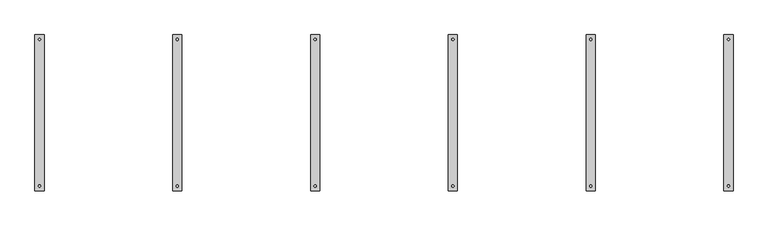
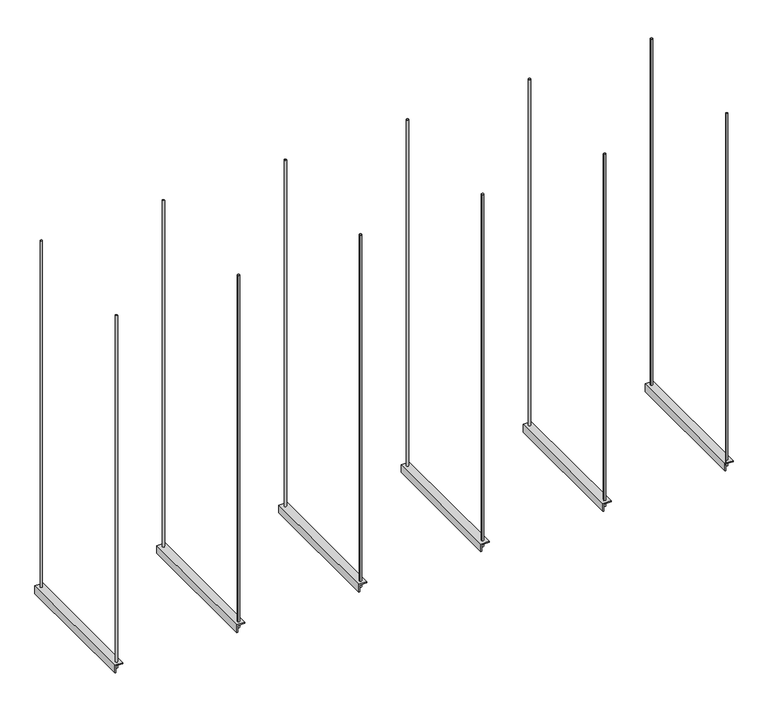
"""IFC4 building model written with IfcOpenShell, lengths in millimetres: damper geometry, 2015_Cuelgue-para-conductos-genérico : Cuelgue de conducto genérico."""

from ifc_helpers import new_model, si_unit, point, frame, frame_2d, origin, place, context, project, spatial, polyline, circle_curve, trimmed, segment, composite_curve, outline, extrude, source, transform, mapped, element, save


def damper_d99fe3be(model_context):
    return source(origin(), model_context, "Body", "SweptSolid", [
        extrude(outline(composite_curve([segment(trimmed(circle_curve(frame_2d((3000.0, 320.0)), 5.0), [point((2995.0, 320.0))], [point((3005.0, 320.0))], False, "CARTESIAN"), True, "CONTINUOUS"), segment(trimmed(circle_curve(frame_2d((3000.0, 320.0)), 5.0), [point((3005.0, 320.0))], [point((2995.0, 320.0))], False, "CARTESIAN"), True, "CONTINUOUS")], self_intersect=False)), frame((0.0, 0.0, -30.0), z_axis=(0.0, 0.0, 1.0), x_axis=(1.0, 0.0, 0.0)), (0.0, 0.0, 1.0), 1830.0),
        extrude(outline(composite_curve([segment(trimmed(circle_curve(frame_2d((3000.0, -320.0)), 5.0), [point((2995.0, -320.0))], [point((3005.0, -320.0))], False, "CARTESIAN"), True, "CONTINUOUS"), segment(trimmed(circle_curve(frame_2d((3000.0, -320.0)), 5.0), [point((3005.0, -320.0))], [point((2995.0, -320.0))], False, "CARTESIAN"), True, "CONTINUOUS")], self_intersect=False)), frame((0.0, 0.0, -30.0), z_axis=(0.0, 0.0, 1.0), x_axis=(1.0, 0.0, 0.0)), (0.0, 0.0, 1.0), 1830.0),
        extrude(outline(polyline([(0.0, 2980.0), (-40.0, 2980.0), (-40.0, 2985.0), (-5.0, 2985.0), (-5.0, 3020.0), (0.0, 3020.0), (0.0, 2980.0)])), frame((0.0, -340.0, 0.0), z_axis=(0.0, 1.0, 0.0), x_axis=(0.0, 0.0, 1.0)), (0.0, 0.0, 1.0), 680.0),
        extrude(outline(composite_curve([segment(trimmed(circle_curve(frame_2d((2400.0, 320.0)), 5.0), [point((2395.0, 320.0))], [point((2405.0, 320.0))], False, "CARTESIAN"), True, "CONTINUOUS"), segment(trimmed(circle_curve(frame_2d((2400.0, 320.0)), 5.0), [point((2405.0, 320.0))], [point((2395.0, 320.0))], False, "CARTESIAN"), True, "CONTINUOUS")], self_intersect=False)), frame((0.0, 0.0, -30.0), z_axis=(0.0, 0.0, 1.0), x_axis=(1.0, 0.0, 0.0)), (0.0, 0.0, 1.0), 1830.0),
        extrude(outline(composite_curve([segment(trimmed(circle_curve(frame_2d((2400.0, -320.0)), 5.0), [point((2395.0, -320.0))], [point((2405.0, -320.0))], False, "CARTESIAN"), True, "CONTINUOUS"), segment(trimmed(circle_curve(frame_2d((2400.0, -320.0)), 5.0), [point((2405.0, -320.0))], [point((2395.0, -320.0))], False, "CARTESIAN"), True, "CONTINUOUS")], self_intersect=False)), frame((0.0, 0.0, -30.0), z_axis=(0.0, 0.0, 1.0), x_axis=(1.0, 0.0, 0.0)), (0.0, 0.0, 1.0), 1830.0),
        extrude(outline(polyline([(0.0, 2380.0), (-40.0, 2380.0), (-40.0, 2385.0), (-5.0, 2385.0), (-5.0, 2420.0), (0.0, 2420.0), (0.0, 2380.0)])), frame((0.0, -340.0, 0.0), z_axis=(0.0, 1.0, 0.0), x_axis=(0.0, 0.0, 1.0)), (0.0, 0.0, 1.0), 680.0),
        extrude(outline(composite_curve([segment(trimmed(circle_curve(frame_2d((1800.0, 320.0)), 5.0), [point((1795.0, 320.0))], [point((1805.0, 320.0))], False, "CARTESIAN"), True, "CONTINUOUS"), segment(trimmed(circle_curve(frame_2d((1800.0, 320.0)), 5.0), [point((1805.0, 320.0))], [point((1795.0, 320.0))], False, "CARTESIAN"), True, "CONTINUOUS")], self_intersect=False)), frame((0.0, 0.0, -30.0), z_axis=(0.0, 0.0, 1.0), x_axis=(1.0, 0.0, 0.0)), (0.0, 0.0, 1.0), 1830.0),
        extrude(outline(composite_curve([segment(trimmed(circle_curve(frame_2d((1800.0, -320.0)), 5.0), [point((1795.0, -320.0))], [point((1805.0, -320.0))], False, "CARTESIAN"), True, "CONTINUOUS"), segment(trimmed(circle_curve(frame_2d((1800.0, -320.0)), 5.0), [point((1805.0, -320.0))], [point((1795.0, -320.0))], False, "CARTESIAN"), True, "CONTINUOUS")], self_intersect=False)), frame((0.0, 0.0, -30.0), z_axis=(0.0, 0.0, 1.0), x_axis=(1.0, 0.0, 0.0)), (0.0, 0.0, 1.0), 1830.0),
        extrude(outline(polyline([(0.0, 1780.0), (-40.0, 1780.0), (-40.0, 1785.0), (-5.0, 1785.0), (-5.0, 1820.0), (0.0, 1820.0), (0.0, 1780.0)])), frame((0.0, -340.0, 0.0), z_axis=(0.0, 1.0, 0.0), x_axis=(0.0, 0.0, 1.0)), (0.0, 0.0, 1.0), 680.0),
        extrude(outline(composite_curve([segment(trimmed(circle_curve(frame_2d((1200.0, 320.0)), 5.0), [point((1195.0, 320.0))], [point((1205.0, 320.0))], False, "CARTESIAN"), True, "CONTINUOUS"), segment(trimmed(circle_curve(frame_2d((1200.0, 320.0)), 5.0), [point((1205.0, 320.0))], [point((1195.0, 320.0))], False, "CARTESIAN"), True, "CONTINUOUS")], self_intersect=False)), frame((0.0, 0.0, -30.0), z_axis=(0.0, 0.0, 1.0), x_axis=(1.0, 0.0, 0.0)), (0.0, 0.0, 1.0), 1830.0),
        extrude(outline(composite_curve([segment(trimmed(circle_curve(frame_2d((1200.0, -320.0)), 5.0), [point((1195.0, -320.0))], [point((1205.0, -320.0))], False, "CARTESIAN"), True, "CONTINUOUS"), segment(trimmed(circle_curve(frame_2d((1200.0, -320.0)), 5.0), [point((1205.0, -320.0))], [point((1195.0, -320.0))], False, "CARTESIAN"), True, "CONTINUOUS")], self_intersect=False)), frame((0.0, 0.0, -30.0), z_axis=(0.0, 0.0, 1.0), x_axis=(1.0, 0.0, 0.0)), (0.0, 0.0, 1.0), 1830.0),
        extrude(outline(polyline([(0.0, 1180.0), (-40.0, 1180.0), (-40.0, 1185.0), (-5.0, 1185.0), (-5.0, 1220.0), (0.0, 1220.0), (0.0, 1180.0)])), frame((0.0, -340.0, 0.0), z_axis=(0.0, 1.0, 0.0), x_axis=(0.0, 0.0, 1.0)), (0.0, 0.0, 1.0), 680.0),
        extrude(outline(composite_curve([segment(trimmed(circle_curve(frame_2d((600.0, 320.0)), 5.0), [point((595.0, 320.0))], [point((605.0, 320.0))], False, "CARTESIAN"), True, "CONTINUOUS"), segment(trimmed(circle_curve(frame_2d((600.0, 320.0)), 5.0), [point((605.0, 320.0))], [point((595.0, 320.0))], False, "CARTESIAN"), True, "CONTINUOUS")], self_intersect=False)), frame((0.0, 0.0, -30.0), z_axis=(0.0, 0.0, 1.0), x_axis=(1.0, 0.0, 0.0)), (0.0, 0.0, 1.0), 1830.0),
        extrude(outline(composite_curve([segment(trimmed(circle_curve(frame_2d((600.0, -320.0)), 5.0), [point((595.0, -320.0))], [point((605.0, -320.0))], False, "CARTESIAN"), True, "CONTINUOUS"), segment(trimmed(circle_curve(frame_2d((600.0, -320.0)), 5.0), [point((605.0, -320.0))], [point((595.0, -320.0))], False, "CARTESIAN"), True, "CONTINUOUS")], self_intersect=False)), frame((0.0, 0.0, -30.0), z_axis=(0.0, 0.0, 1.0), x_axis=(1.0, 0.0, 0.0)), (0.0, 0.0, 1.0), 1830.0),
        extrude(outline(polyline([(0.0, 580.0), (-40.0, 580.0), (-40.0, 585.0), (-5.0, 585.0), (-5.0, 620.0), (0.0, 620.0), (0.0, 580.0)])), frame((0.0, -340.0, 0.0), z_axis=(0.0, 1.0, 0.0), x_axis=(0.0, 0.0, 1.0)), (0.0, 0.0, 1.0), 680.0),
        extrude(outline(composite_curve([segment(trimmed(circle_curve(frame_2d((0.0, 320.0)), 5.0), [point((-5.0, 320.0))], [point((5.0, 320.0))], False, "CARTESIAN"), True, "CONTINUOUS"), segment(trimmed(circle_curve(frame_2d((0.0, 320.0)), 5.0), [point((5.0, 320.0))], [point((-5.0, 320.0))], False, "CARTESIAN"), True, "CONTINUOUS")], self_intersect=False)), frame((0.0, 0.0, -30.0), z_axis=(0.0, 0.0, 1.0), x_axis=(1.0, 0.0, 0.0)), (0.0, 0.0, 1.0), 1830.0),
        extrude(outline(composite_curve([segment(trimmed(circle_curve(frame_2d((0.0, -320.0)), 5.0), [point((-5.0, -320.0))], [point((5.0, -320.0))], False, "CARTESIAN"), True, "CONTINUOUS"), segment(trimmed(circle_curve(frame_2d((0.0, -320.0)), 5.0), [point((5.0, -320.0))], [point((-5.0, -320.0))], False, "CARTESIAN"), True, "CONTINUOUS")], self_intersect=False)), frame((0.0, 0.0, -30.0), z_axis=(0.0, 0.0, 1.0), x_axis=(1.0, 0.0, 0.0)), (0.0, 0.0, 1.0), 1830.0),
        extrude(outline(polyline([(0.0, -20.0), (-40.0, -20.0), (-40.0, -15.0), (-5.0, -15.0), (-5.0, 20.0), (0.0, 20.0), (0.0, -20.0)])), frame((0.0, -340.0, 0.0), z_axis=(0.0, 1.0, 0.0), x_axis=(0.0, 0.0, 1.0)), (0.0, 0.0, 1.0), 680.0),
    ])


if __name__ == "__main__":
    model = new_model("IFC4")
    model_context = context("Model", 3, world=origin())
    ifc_project = project(units=[si_unit("LENGTHUNIT", "METRE", prefix="MILLI")], contexts=[model_context])
    site = spatial("IfcSite", under=ifc_project)
    building = spatial("IfcBuilding", under=site)
    placement = place(None, origin())
    damper_shape = damper_d99fe3be(model_context)
    element("IfcDamper", 1, ObjectType="2015_Cuelgue-para-conductos-genérico : Cuelgue de conducto genérico", at=placement, inside=building, context=model_context, shape_type="MappedRepresentation", body=[
        mapped(damper_shape, transform((0.0, 0.0, 0.0), x_axis=(1.0, 0.0, 0.0), y_axis=(0.0, 1.0, 0.0), z_axis=(0.0, 0.0, 1.0))),
    ])
    save(model, "model.ifc")
